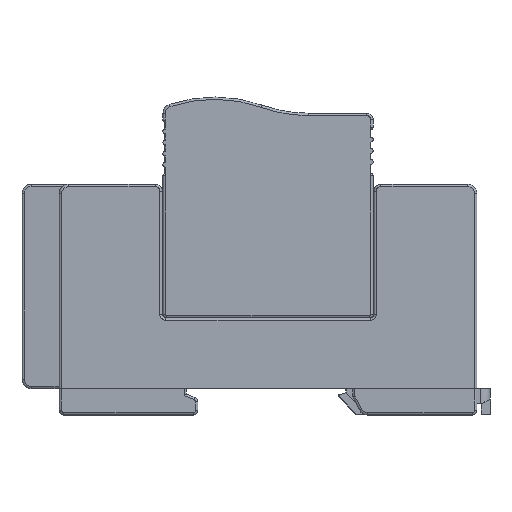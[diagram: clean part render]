
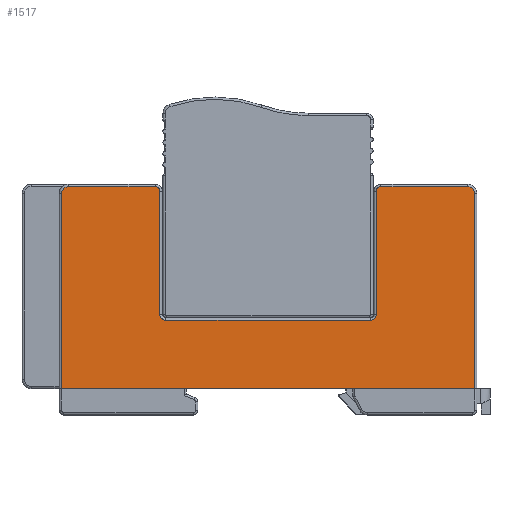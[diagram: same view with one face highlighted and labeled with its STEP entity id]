
A CAD part, front view. The second image highlights one B-rep face of the part: STEP entity #1517.
In plain terms, the highlighted planar face has unit normal (0, -1, 0).
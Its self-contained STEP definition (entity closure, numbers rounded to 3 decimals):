
#805=CIRCLE('',#23324,1.5);
#806=CIRCLE('',#23325,1.5);
#807=CIRCLE('',#23326,1.);
#808=CIRCLE('',#23327,1.3);
#809=CIRCLE('',#23328,1.3);
#810=CIRCLE('',#23329,1.);
#1517=ADVANCED_FACE('',(#3665),#2638,.T.);
#2638=PLANE('',#23330);
#3665=FACE_OUTER_BOUND('',#4908,.T.);
#4908=EDGE_LOOP('',(#8302,#8303,#8304,#8305,#8306,#8307,#8308,#8309,#8310,
#8311,#8312,#8313,#8314,#8315));
#8302=ORIENTED_EDGE('',*,*,#15715,.T.);
#8303=ORIENTED_EDGE('',*,*,#15716,.T.);
#8304=ORIENTED_EDGE('',*,*,#15680,.T.);
#8305=ORIENTED_EDGE('',*,*,#15717,.T.);
#8306=ORIENTED_EDGE('',*,*,#15718,.T.);
#8307=ORIENTED_EDGE('',*,*,#15719,.T.);
#8308=ORIENTED_EDGE('',*,*,#15720,.T.);
#8309=ORIENTED_EDGE('',*,*,#15721,.T.);
#8310=ORIENTED_EDGE('',*,*,#15722,.T.);
#8311=ORIENTED_EDGE('',*,*,#15723,.T.);
#8312=ORIENTED_EDGE('',*,*,#15724,.T.);
#8313=ORIENTED_EDGE('',*,*,#15725,.T.);
#8314=ORIENTED_EDGE('',*,*,#15726,.T.);
#8315=ORIENTED_EDGE('',*,*,#15727,.T.);
#13213=VERTEX_POINT('',#33642);
#13214=VERTEX_POINT('',#33644);
#13246=VERTEX_POINT('',#33714);
#13247=VERTEX_POINT('',#33715);
#13248=VERTEX_POINT('',#33718);
#13249=VERTEX_POINT('',#33720);
#13250=VERTEX_POINT('',#33722);
#13251=VERTEX_POINT('',#33724);
#13252=VERTEX_POINT('',#33726);
#13253=VERTEX_POINT('',#33728);
#13254=VERTEX_POINT('',#33730);
#13255=VERTEX_POINT('',#33732);
#13256=VERTEX_POINT('',#33734);
#13257=VERTEX_POINT('',#33736);
#15680=EDGE_CURVE('',#13214,#13213,#18635,.T.);
#15715=EDGE_CURVE('',#13246,#13247,#805,.T.);
#15716=EDGE_CURVE('',#13247,#13214,#18666,.T.);
#15717=EDGE_CURVE('',#13213,#13248,#18667,.T.);
#15718=EDGE_CURVE('',#13248,#13249,#806,.T.);
#15719=EDGE_CURVE('',#13249,#13250,#18668,.T.);
#15720=EDGE_CURVE('',#13250,#13251,#807,.T.);
#15721=EDGE_CURVE('',#13251,#13252,#18669,.T.);
#15722=EDGE_CURVE('',#13252,#13253,#808,.T.);
#15723=EDGE_CURVE('',#13253,#13254,#18670,.T.);
#15724=EDGE_CURVE('',#13254,#13255,#809,.T.);
#15725=EDGE_CURVE('',#13255,#13256,#18671,.T.);
#15726=EDGE_CURVE('',#13256,#13257,#810,.T.);
#15727=EDGE_CURVE('',#13257,#13246,#18672,.T.);
#18635=LINE('',#33643,#21249);
#18666=LINE('',#33716,#21280);
#18667=LINE('',#33717,#21281);
#18668=LINE('',#33721,#21282);
#18669=LINE('',#33725,#21283);
#18670=LINE('',#33729,#21284);
#18671=LINE('',#33733,#21285);
#18672=LINE('',#33737,#21286);
#21249=VECTOR('',#26938,1.);
#21280=VECTOR('',#26985,1.);
#21281=VECTOR('',#26986,1.);
#21282=VECTOR('',#26989,1.);
#21283=VECTOR('',#26992,1.);
#21284=VECTOR('',#26995,1.);
#21285=VECTOR('',#26998,1.);
#21286=VECTOR('',#27001,1.);
#23324=AXIS2_PLACEMENT_3D('',#33713,#26983,#26984);
#23325=AXIS2_PLACEMENT_3D('',#33719,#26987,#26988);
#23326=AXIS2_PLACEMENT_3D('',#33723,#26990,#26991);
#23327=AXIS2_PLACEMENT_3D('',#33727,#26993,#26994);
#23328=AXIS2_PLACEMENT_3D('',#33731,#26996,#26997);
#23329=AXIS2_PLACEMENT_3D('',#33735,#26999,#27000);
#23330=AXIS2_PLACEMENT_3D('',#33738,#27002,#27003);
#26938=DIRECTION('',(1.,0.,0.));
#26983=DIRECTION('',(0.,-1.,0.));
#26984=DIRECTION('',(0.,0.,-1.));
#26985=DIRECTION('',(0.,0.,-1.));
#26986=DIRECTION('',(0.,0.,1.));
#26987=DIRECTION('',(0.,-1.,0.));
#26988=DIRECTION('',(0.,0.,-1.));
#26989=DIRECTION('',(-1.,0.,0.));
#26990=DIRECTION('',(0.,-1.,0.));
#26991=DIRECTION('',(0.,0.,-1.));
#26992=DIRECTION('',(0.,0.,-1.));
#26993=DIRECTION('',(0.,1.,0.));
#26994=DIRECTION('',(0.,0.,-1.));
#26995=DIRECTION('',(-1.,0.,0.));
#26996=DIRECTION('',(0.,1.,0.));
#26997=DIRECTION('',(0.,0.,-1.));
#26998=DIRECTION('',(0.,0.,1.));
#26999=DIRECTION('',(0.,-1.,0.));
#27000=DIRECTION('',(0.,0.,-1.));
#27001=DIRECTION('',(-1.,0.,0.));
#27002=DIRECTION('',(0.,-1.,0.));
#27003=DIRECTION('',(0.,0.,-1.));
#33642=CARTESIAN_POINT('',(89.5,0.,0.));
#33643=CARTESIAN_POINT('',(45.,0.,0.));
#33644=CARTESIAN_POINT('',(0.5,0.,0.));
#33713=CARTESIAN_POINT('',(2.,0.,42.));
#33714=CARTESIAN_POINT('',(2.,0.,43.5));
#33715=CARTESIAN_POINT('',(0.5,0.,42.));
#33716=CARTESIAN_POINT('',(0.5,0.,0.));
#33717=CARTESIAN_POINT('',(89.5,0.,0.));
#33718=CARTESIAN_POINT('',(89.5,0.,42.));
#33719=CARTESIAN_POINT('',(88.,0.,42.));
#33720=CARTESIAN_POINT('',(88.,0.,43.5));
#33721=CARTESIAN_POINT('',(45.,0.,43.5));
#33722=CARTESIAN_POINT('',(69.3,0.,43.5));
#33723=CARTESIAN_POINT('',(69.3,0.,42.5));
#33724=CARTESIAN_POINT('',(68.3,0.,42.5));
#33725=CARTESIAN_POINT('',(68.3,0.,16.));
#33726=CARTESIAN_POINT('',(68.3,0.,16.));
#33727=CARTESIAN_POINT('',(67.,0.,16.));
#33728=CARTESIAN_POINT('',(67.,0.,14.7));
#33729=CARTESIAN_POINT('',(23.,0.,14.7));
#33730=CARTESIAN_POINT('',(23.,0.,14.7));
#33731=CARTESIAN_POINT('',(23.,0.,16.));
#33732=CARTESIAN_POINT('',(21.7,0.,16.));
#33733=CARTESIAN_POINT('',(21.7,0.,42.5));
#33734=CARTESIAN_POINT('',(21.7,0.,42.5));
#33735=CARTESIAN_POINT('',(20.7,0.,42.5));
#33736=CARTESIAN_POINT('',(20.7,0.,43.5));
#33737=CARTESIAN_POINT('',(45.,0.,43.5));
#33738=CARTESIAN_POINT('',(45.,0.,0.));
